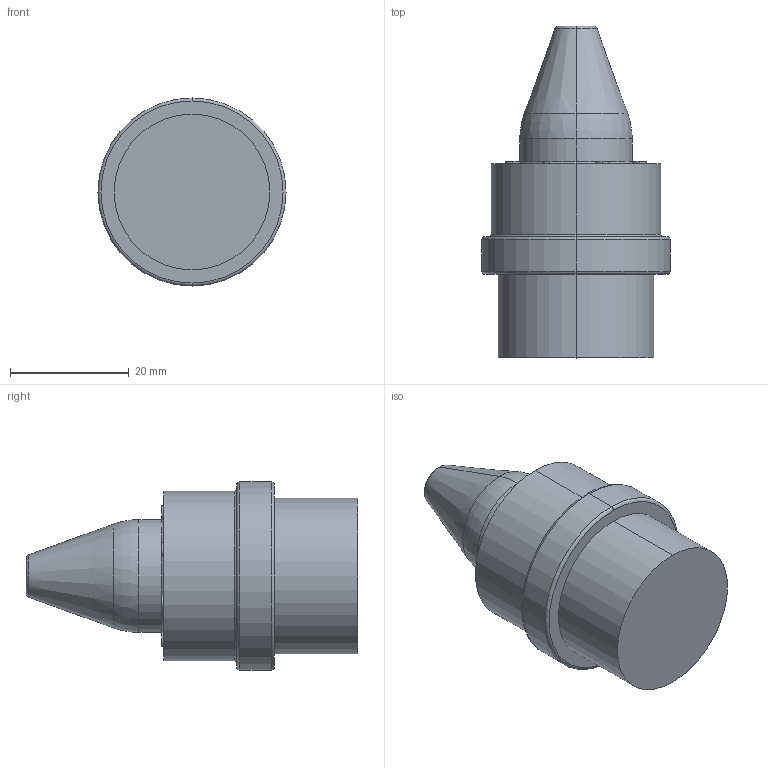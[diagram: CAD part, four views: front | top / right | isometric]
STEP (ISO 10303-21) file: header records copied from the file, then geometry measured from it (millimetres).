
FILE_DESCRIPTION (( 'STEP AP214' ), '1' );
FILE_NAME ('PA-.750-.150-P-W.stp', '2020-05-01T17:55:18', ( '' ), ( '' ), 'SwSTEP 2.0', 'SolidWorks 2017', '' );
FILE_SCHEMA (( 'AUTOMOTIVE_DESIGN' ));
Length unit declared in the file: inch
Products named in the file (1): PA-.750-.150-P-W
Bounding box: 31.75 x 56.01 x 31.75 mm (x, y, z)
Volume: 24775.1 mm3; surface area: 5296.9 mm2
Topology: 1 solids, 1 shells, 51 faces, 100 edges, 62 vertices
Faces by surface type: cylinder 24, plane 13, torus 12, cone 2
Entity records: 1376 total; most frequent: DIRECTION 278, CARTESIAN_POINT 214, ORIENTED_EDGE 200, AXIS2_PLACEMENT_3D 126, EDGE_CURVE 100, CIRCLE 74, EDGE_LOOP 62, VERTEX_POINT 62
